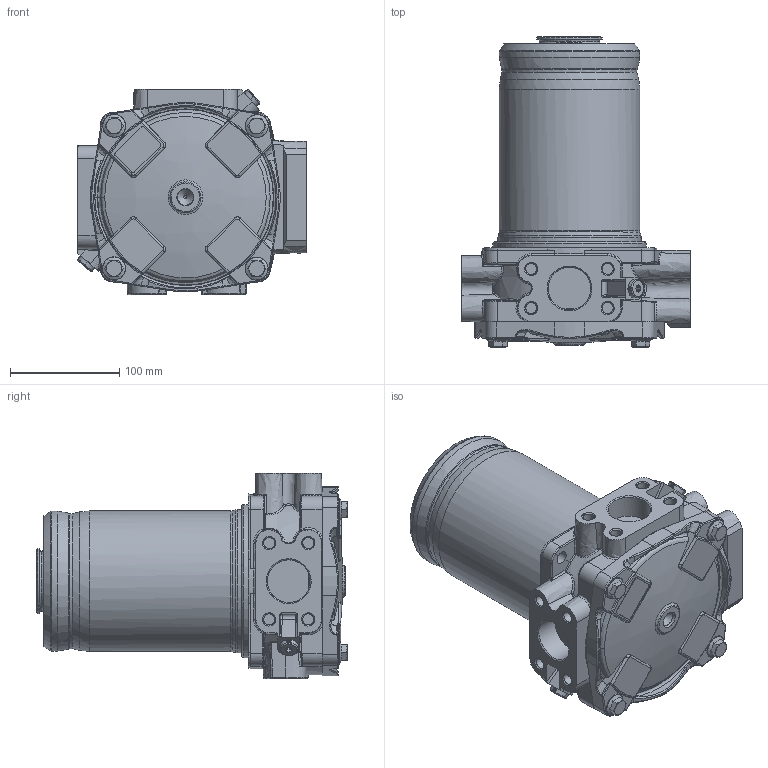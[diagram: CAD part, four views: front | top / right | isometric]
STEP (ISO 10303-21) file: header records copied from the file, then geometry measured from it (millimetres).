
FILE_DESCRIPTION((''),'2;1');
FILE_NAME('U:\Users\i.maeder\w\30370800_E443-4A.stp', '2014-06-18T14:14:42',('User'),('SDRC'),'I-DEAS Master Series 9','UNIX', 'Yes');
FILE_SCHEMA(('AUTOMOTIVE_DESIGN { 1 0 10303 214 1 1 1 1 }'));
Length unit declared in the file: millimetre
Products named in the file (1): 30370800(340394)
Bounding box: 209 x 283.4 x 187.5 mm (x, y, z)
Volume: 4671178.7 mm3; surface area: 260341 mm2
Topology: 1 solids, 32 shells, 1495 faces, 3911 edges, 2601 vertices
Faces by surface type: bspline 1495
Entity records: 60209 total; most frequent: CARTESIAN_POINT 39289, ORIENTED_EDGE 7264, EDGE_CURVE 3632, VERTEX_POINT 2245, B_SPLINE_CURVE_WITH_KNOTS 1995, EDGE_LOOP 1559, FACE_OUTER_BOUND 1495, ADVANCED_FACE 1495
